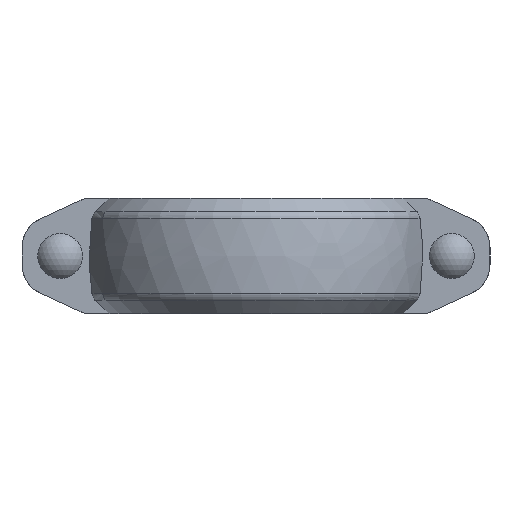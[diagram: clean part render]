
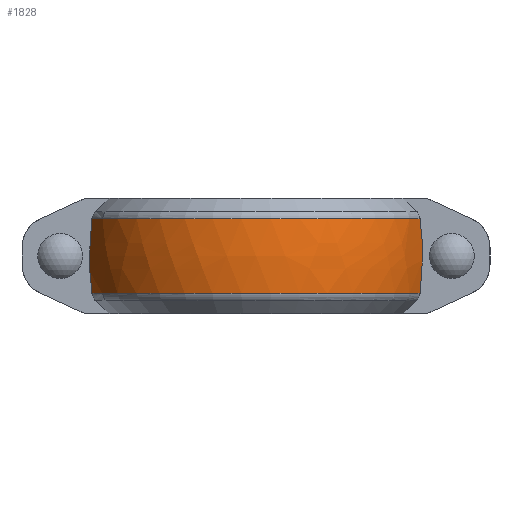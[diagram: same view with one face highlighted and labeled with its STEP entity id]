
A CAD part, front view. The second image highlights one B-rep face of the part: STEP entity #1828.
In plain terms, the highlighted free-form (B-spline) face has degree [2, 2] with [3, 5] control points.
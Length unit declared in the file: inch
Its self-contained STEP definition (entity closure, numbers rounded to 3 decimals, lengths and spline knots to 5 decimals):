
#27=(
BOUNDED_SURFACE()
B_SPLINE_SURFACE(2,2,((#3225,#3226,#3227,#3228,#3229),(#3230,#3231,#3232,
#3233,#3234),(#3235,#3236,#3237,#3238,#3239)),.UNSPECIFIED.,.F.,.F.,.F.)
B_SPLINE_SURFACE_WITH_KNOTS((3,3),(3,2,3),(-0.12188,0.12188),
(0.27609,1.5708,2.86551),.UNSPECIFIED.)
GEOMETRIC_REPRESENTATION_ITEM()
RATIONAL_B_SPLINE_SURFACE(((1.,0.798,1.,0.798,1.),
(0.993,0.792,0.993,0.792,
0.993),(1.,0.798,1.,0.798,1.)))
REPRESENTATION_ITEM('')
SURFACE()
);
#29=B_SPLINE_CURVE_WITH_KNOTS('',3,(#2993,#2994,#2995,#2996,#2997,#2998,
#2999,#3000,#3001,#3002),.UNSPECIFIED.,.F.,.F.,(4,2,2,2,4),(13.2751,
14.09747,15.02461,15.95176,16.77413),
 .UNSPECIFIED.);
#35=B_SPLINE_CURVE_WITH_KNOTS('',3,(#3103,#3104,#3105,#3106,#3107,#3108,
#3109,#3110,#3111,#3112),.UNSPECIFIED.,.F.,.F.,(4,2,2,2,4),(43.32433,
44.1467,45.07384,46.00099,46.82336),
 .UNSPECIFIED.);
#232=FACE_OUTER_BOUND('',#341,.T.);
#341=EDGE_LOOP('',(#1613,#1614,#1615,#1616));
#688=CIRCLE('',#2044,3.33049);
#693=CIRCLE('',#2055,3.33049);
#839=VERTEX_POINT('',#2979);
#840=VERTEX_POINT('',#2992);
#854=VERTEX_POINT('',#3089);
#855=VERTEX_POINT('',#3102);
#1069=EDGE_CURVE('',#840,#839,#29,.T.);
#1090=EDGE_CURVE('',#855,#854,#35,.T.);
#1109=EDGE_CURVE('',#855,#839,#688,.T.);
#1114=EDGE_CURVE('',#854,#840,#693,.T.);
#1613=ORIENTED_EDGE('',*,*,#1069,.T.);
#1614=ORIENTED_EDGE('',*,*,#1109,.F.);
#1615=ORIENTED_EDGE('',*,*,#1090,.T.);
#1616=ORIENTED_EDGE('',*,*,#1114,.T.);
#1828=ADVANCED_FACE('',(#232),#27,.F.);
#2044=AXIS2_PLACEMENT_3D('',#3213,#2532,#2533);
#2055=AXIS2_PLACEMENT_3D('',#3224,#2554,#2555);
#2532=DIRECTION('center_axis',(0.,0.,-1.));
#2533=DIRECTION('ref_axis',(1.,0.,0.));
#2554=DIRECTION('center_axis',(0.,0.,-1.));
#2555=DIRECTION('ref_axis',(1.,0.,0.));
#2979=CARTESIAN_POINT('',(3.2009,0.92,-0.7295));
#2992=CARTESIAN_POINT('',(3.2009,0.92,0.7295));
#2993=CARTESIAN_POINT('Ctrl Pts',(3.2009,0.92,0.7295));
#2994=CARTESIAN_POINT('Ctrl Pts',(3.21584,0.92,0.61225));
#2995=CARTESIAN_POINT('Ctrl Pts',(3.22711,0.92,0.49479));
#2996=CARTESIAN_POINT('Ctrl Pts',(3.24328,0.92,0.24922));
#2997=CARTESIAN_POINT('Ctrl Pts',(3.24719,0.92,0.12167));
#2998=CARTESIAN_POINT('Ctrl Pts',(3.24719,0.92,-0.12167));
#2999=CARTESIAN_POINT('Ctrl Pts',(3.24328,0.92,-0.24922));
#3000=CARTESIAN_POINT('Ctrl Pts',(3.22711,0.92,-0.49479));
#3001=CARTESIAN_POINT('Ctrl Pts',(3.21584,0.92,-0.61225));
#3002=CARTESIAN_POINT('Ctrl Pts',(3.2009,0.92,-0.7295));
#3089=CARTESIAN_POINT('',(-3.2009,0.92,0.7295));
#3102=CARTESIAN_POINT('',(-3.2009,0.92,-0.7295));
#3103=CARTESIAN_POINT('Ctrl Pts',(-3.2009,0.92,-0.7295));
#3104=CARTESIAN_POINT('Ctrl Pts',(-3.21584,0.92,-0.61225));
#3105=CARTESIAN_POINT('Ctrl Pts',(-3.22711,0.92,-0.49479));
#3106=CARTESIAN_POINT('Ctrl Pts',(-3.24328,0.92,-0.24922));
#3107=CARTESIAN_POINT('Ctrl Pts',(-3.24719,0.92,-0.12167));
#3108=CARTESIAN_POINT('Ctrl Pts',(-3.24719,0.92,0.12167));
#3109=CARTESIAN_POINT('Ctrl Pts',(-3.24328,0.92,0.24922));
#3110=CARTESIAN_POINT('Ctrl Pts',(-3.22711,0.92,0.49479));
#3111=CARTESIAN_POINT('Ctrl Pts',(-3.21584,0.92,0.61225));
#3112=CARTESIAN_POINT('Ctrl Pts',(-3.2009,0.92,0.7295));
#3213=CARTESIAN_POINT('Origin',(0.,0.,-0.7295));
#3224=CARTESIAN_POINT('Origin',(0.,0.,0.7295));
#3225=CARTESIAN_POINT('Ctrl Pts',(-3.20436,0.90787,0.7295));
#3226=CARTESIAN_POINT('Ctrl Pts',(-2.51798,3.33049,0.7295));
#3227=CARTESIAN_POINT('Ctrl Pts',(0.,3.33049,0.7295));
#3228=CARTESIAN_POINT('Ctrl Pts',(2.51798,3.33049,0.7295));
#3229=CARTESIAN_POINT('Ctrl Pts',(3.20436,0.90787,0.7295));
#3230=CARTESIAN_POINT('Ctrl Pts',(-3.29033,0.93222,0.));
#3231=CARTESIAN_POINT('Ctrl Pts',(-2.58554,3.41985,0.));
#3232=CARTESIAN_POINT('Ctrl Pts',(0.,3.41985,0.));
#3233=CARTESIAN_POINT('Ctrl Pts',(2.58554,3.41985,0.));
#3234=CARTESIAN_POINT('Ctrl Pts',(3.29033,0.93222,0.));
#3235=CARTESIAN_POINT('Ctrl Pts',(-3.20436,0.90787,-0.7295));
#3236=CARTESIAN_POINT('Ctrl Pts',(-2.51798,3.33049,-0.7295));
#3237=CARTESIAN_POINT('Ctrl Pts',(0.,3.33049,-0.7295));
#3238=CARTESIAN_POINT('Ctrl Pts',(2.51798,3.33049,-0.7295));
#3239=CARTESIAN_POINT('Ctrl Pts',(3.20436,0.90787,-0.7295));
